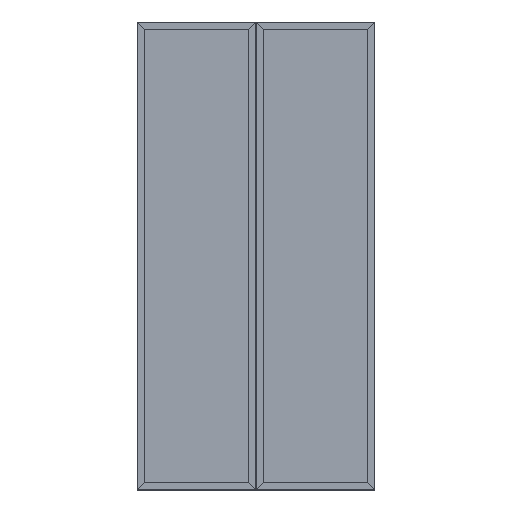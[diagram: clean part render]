
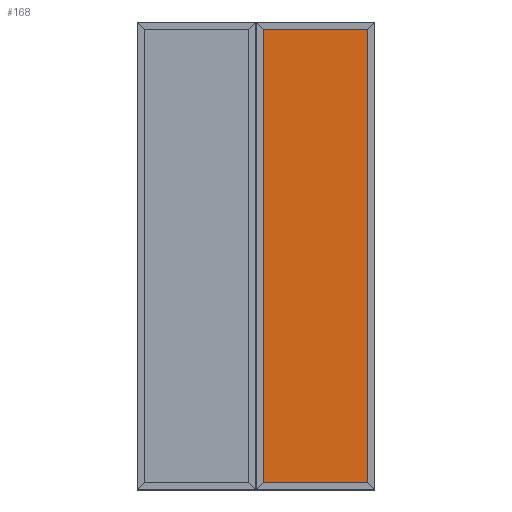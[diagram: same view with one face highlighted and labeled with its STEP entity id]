
A CAD part, top view. The second image highlights one B-rep face of the part: STEP entity #168.
In plain terms, the highlighted planar face has unit normal (0, 0, 1).
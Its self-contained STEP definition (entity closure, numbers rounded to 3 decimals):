
#93 = DIRECTION ( 'NONE',  ( -1., 0., 0. ) ) ;
#168 = ADVANCED_FACE ( 'NONE', ( #4835 ), #10313, .F. ) ;
#310 = CARTESIAN_POINT ( 'NONE',  ( 267.075, 0., -13.25 ) ) ;
#638 = VERTEX_POINT ( 'NONE', #20823 ) ;
#2314 = CARTESIAN_POINT ( 'NONE',  ( 0., 0., -13.25 ) ) ;
#2571 = EDGE_CURVE ( 'NONE', #18382, #638, #21952, .T. ) ;
#3321 = VECTOR ( 'NONE', #93, 1000. ) ;
#3598 = CARTESIAN_POINT ( 'NONE',  ( -267.075, 0., -13.25 ) ) ;
#4430 = DIRECTION ( 'NONE',  ( 0., 1., 0. ) ) ;
#4835 = FACE_OUTER_BOUND ( 'NONE', #10888, .T. ) ;
#4982 = AXIS2_PLACEMENT_3D ( 'NONE', #2314, #16577, #22730 ) ;
#5291 = EDGE_CURVE ( 'NONE', #9965, #638, #19865, .T. ) ;
#7403 = LINE ( 'NONE', #15535, #13648 ) ;
#8170 = EDGE_CURVE ( 'NONE', #16535, #9965, #7403, .T. ) ;
#9926 = ORIENTED_EDGE ( 'NONE', *, *, #5291, .F. ) ;
#9965 = VERTEX_POINT ( 'NONE', #22596 ) ;
#10313 = PLANE ( 'NONE',  #4982 ) ;
#10426 = LINE ( 'NONE', #310, #22979 ) ;
#10888 = EDGE_LOOP ( 'NONE', ( #19257, #15526, #19097, #9926 ) ) ;
#12089 = CARTESIAN_POINT ( 'NONE',  ( 267.075, -1162.2, -13.25 ) ) ;
#13648 = VECTOR ( 'NONE', #15419, 1000. ) ;
#15419 = DIRECTION ( 'NONE',  ( -1., 0., 0. ) ) ;
#15526 = ORIENTED_EDGE ( 'NONE', *, *, #20821, .T. ) ;
#15535 = CARTESIAN_POINT ( 'NONE',  ( 0., -1162.2, -13.25 ) ) ;
#16119 = DIRECTION ( 'NONE',  ( 0., 1., 0. ) ) ;
#16535 = VERTEX_POINT ( 'NONE', #12089 ) ;
#16577 = DIRECTION ( 'NONE',  ( 0., 0., -1. ) ) ;
#18332 = CARTESIAN_POINT ( 'NONE',  ( 0., 1162.2, -13.25 ) ) ;
#18382 = VERTEX_POINT ( 'NONE', #18586 ) ;
#18586 = CARTESIAN_POINT ( 'NONE',  ( 267.075, 1162.2, -13.25 ) ) ;
#19097 = ORIENTED_EDGE ( 'NONE', *, *, #2571, .T. ) ;
#19257 = ORIENTED_EDGE ( 'NONE', *, *, #8170, .F. ) ;
#19865 = LINE ( 'NONE', #3598, #22018 ) ;
#20821 = EDGE_CURVE ( 'NONE', #16535, #18382, #10426, .T. ) ;
#20823 = CARTESIAN_POINT ( 'NONE',  ( -267.075, 1162.2, -13.25 ) ) ;
#21952 = LINE ( 'NONE', #18332, #3321 ) ;
#22018 = VECTOR ( 'NONE', #16119, 1000. ) ;
#22596 = CARTESIAN_POINT ( 'NONE',  ( -267.075, -1162.2, -13.25 ) ) ;
#22730 = DIRECTION ( 'NONE',  ( -1., 0., 0. ) ) ;
#22979 = VECTOR ( 'NONE', #4430, 1000. ) ;
